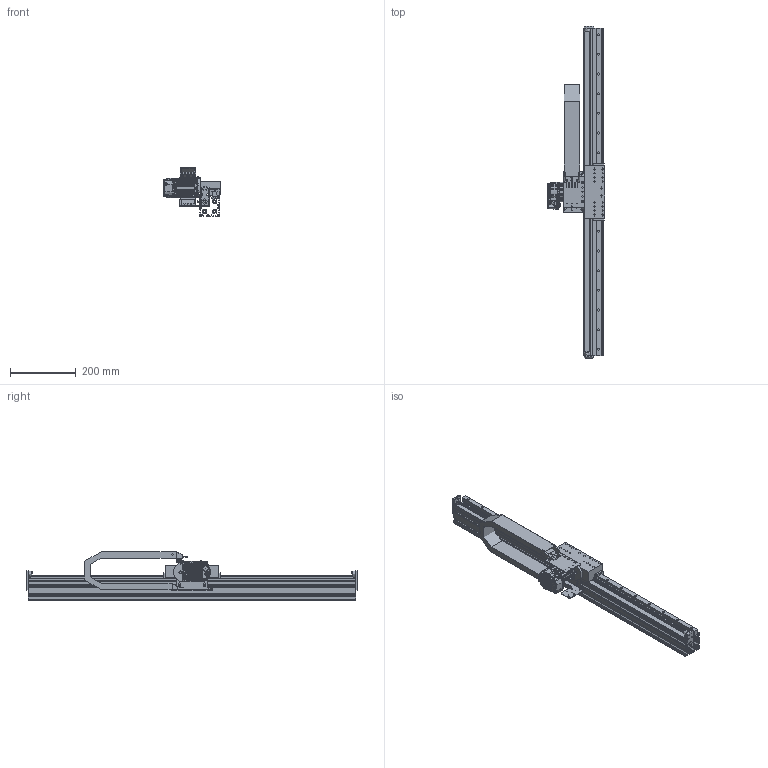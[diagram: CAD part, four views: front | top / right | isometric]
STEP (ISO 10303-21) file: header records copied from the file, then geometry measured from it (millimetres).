
FILE_DESCRIPTION( ( '' ), ' ' );
FILE_NAME( '/vol/tmp/translate-13281081300172326080/5ce2be924f7fbd1649e18eb4.step', '2019-05-20T14:49:59', ( '' ), ( '' ), ' ', ' ', ' ' );
FILE_SCHEMA( ( 'AUTOMOTIVE_DESIGN { 1 0 10303 214 1 1 1 1 }' ) );
Length unit declared in the file: metre
Products named in the file (80): ALLOY SCREW T-BLOCK & CAP <14>; 103878-001 8mm T-BLOCK M4; 100001-8100 M4-.70 X 16 ALLOY SHCS; 15mm RAIL CAP; ALLOY SCREW T-BLOCK & CAP <10>; ALLOY SCREW T-BLOCK & CAP <1>; ALLOY SCREW T-BLOCK & CAP <17>; ALLOY SCREW T-BLOCK & CAP <13>; ALLOY SCREW T-BLOCK & CAP <8>; FASTENERS <2>; #6801; 103331-001 NUT PLATE; ALLOY SCREW T-BLOCK & CAP <16>; FASTENERS <4>; FASTENERS <5>; FASTENERS <6>; ALLOY SCREW T-BLOCK & CAP <11>; ALLOY SCREW T-BLOCK & CAP <3>; ALLOY SCREW T-BLOCK & CAP <7>; ALLOY SCREW T-BLOCK & CAP <6>; ALLOY SCREW T-BLOCK & CAP <5>; FASTENERS <3>; ALLOY SCREW T-BLOCK & CAP <12>; ALLOY SCREW T-BLOCK & CAP <15>; ALLOY SCREW T-BLOCK & CAP <9>; ALLOY SCREW T-BLOCK & CAP <2>; ALLOY SCREW T-BLOCK & CAP <4>; FASTENERS <7>; FASTENERS <1>; CPM-23XX & PINION <1>; GENERIC CPM 232X; 104885-009 SBL-L PINION GEAR .375 BORE; 100013-007 M4 X 4 SS SET SCREW; TRAY <1>; 103551-1000 SBL-L BELT TRAY; 102610-007 TAPE 5/8 WIDE; 103307-001 T5 X 16mm BELTING; RAIL ALLOY <1>; 101069-1000 BOSCH 15mm RAIL; SBL-L HARD STOP LEFT END <1>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
Assembly tree (180 placements, depth 5):
  Assem1
    102977-001 LINKS
    103307-001 T5 X 16mm BELTING
    1000 CHASSIS <1>
      104108-1000 30-SERIES PROFILE 60X60
      RAIL ALLOY <1>
        101069-1000 BOSCH 15mm RAIL
        ALLOY SCREW T-BLOCK & CAP <2>
          103878-001 8mm T-BLOCK M4
          15mm RAIL CAP
          100001-8100 M4-.70 X 16 ALLOY SHCS
        ALLOY SCREW T-BLOCK & CAP <11>
          103878-001 8mm T-BLOCK M4
          100001-8100 M4-.70 X 16 ALLOY SHCS
          15mm RAIL CAP
        ALLOY SCREW T-BLOCK & CAP <13>
          100001-8100 M4-.70 X 16 ALLOY SHCS
          103878-001 8mm T-BLOCK M4
          15mm RAIL CAP
        ALLOY SCREW T-BLOCK & CAP <14>
          103878-001 8mm T-BLOCK M4
          100001-8100 M4-.70 X 16 ALLOY SHCS
          15mm RAIL CAP
        ALLOY SCREW T-BLOCK & CAP <12>
          15mm RAIL CAP
          100001-8100 M4-.70 X 16 ALLOY SHCS
          103878-001 8mm T-BLOCK M4
        ALLOY SCREW T-BLOCK & CAP <1>
          103878-001 8mm T-BLOCK M4
          15mm RAIL CAP
          100001-8100 M4-.70 X 16 ALLOY SHCS
        ALLOY SCREW T-BLOCK & CAP <9>
          15mm RAIL CAP
          100001-8100 M4-.70 X 16 ALLOY SHCS
          103878-001 8mm T-BLOCK M4
        ALLOY SCREW T-BLOCK & CAP <6>
          103878-001 8mm T-BLOCK M4
          100001-8100 M4-.70 X 16 ALLOY SHCS
          15mm RAIL CAP
        ALLOY SCREW T-BLOCK & CAP <7>
          103878-001 8mm T-BLOCK M4
          15mm RAIL CAP
          100001-8100 M4-.70 X 16 ALLOY SHCS
        ALLOY SCREW T-BLOCK & CAP <4>
          15mm RAIL CAP
          100001-8100 M4-.70 X 16 ALLOY SHCS
          103878-001 8mm T-BLOCK M4
        ALLOY SCREW T-BLOCK & CAP <10>
          15mm RAIL CAP
          100001-8100 M4-.70 X 16 ALLOY SHCS
          103878-001 8mm T-BLOCK M4
        ALLOY SCREW T-BLOCK & CAP <3>
          100001-8100 M4-.70 X 16 ALLOY SHCS
          103878-001 8mm T-BLOCK M4
          15mm RAIL CAP
        ALLOY SCREW T-BLOCK & CAP <8>
          15mm RAIL CAP
          100001-8100 M4-.70 X 16 ALLOY SHCS
          103878-001 8mm T-BLOCK M4
        ALLOY SCREW T-BLOCK & CAP <5>
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Bounding box: 174.1 x 1012.7 x 148.58 mm (x, y, z)
Topology: 166 solids, 173 shells, 7207 faces, 17945 edges, 11242 vertices
Faces by surface type: plane 2688, cylinder 1862, bspline 1055, torus 829, cone 690, extrusion 42, sphere 41
Full cylindrical faces by diameter (mm): 1.587 x1, 1.6 x1, 1.846 x1, 2 x1, 2.096 x1, 2.261 x7, 2.44 x114, 2.489 x4, 2.5 x20, 2.667 x2, 2.845 x7, 2.9 x2, 2.946 x7, 3 x16, 3.048 x4, 3.09 x4, 3.175 x2, 3.2 x8, 3.277 x8, 3.3 x10, 3.962 x2, 3.988 x29, 4 x31, 4.2 x13, 4.216 x8, 4.4 x17, 4.5 x14, 4.648 x7, 5 x11, 5.004 x6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
Entity records: 296501 total; most frequent: CARTESIAN_POINT 123838, ORIENTED_EDGE 26478, DIRECTION 25740, EDGE_CURVE 13239, AXIS2_PLACEMENT_3D 10252, VERTEX_POINT 8598, EDGE_LOOP 6852, FACE_OUTER_BOUND 6164
